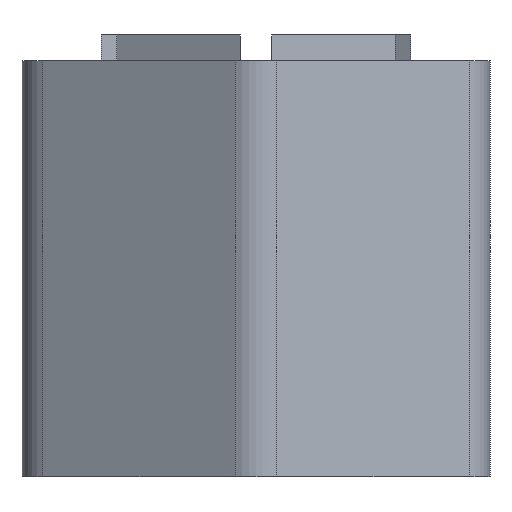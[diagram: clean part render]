
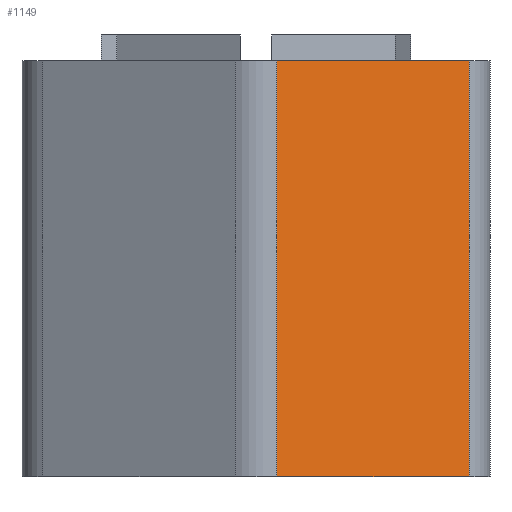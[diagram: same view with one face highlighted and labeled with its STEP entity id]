
A CAD part, front view. The second image highlights one B-rep face of the part: STEP entity #1149.
In plain terms, the highlighted planar face has unit normal (0.5, -0.866, 0).
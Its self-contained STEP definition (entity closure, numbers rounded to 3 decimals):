
#41=LINE('',#1647,#155);
#81=LINE('',#2161,#195);
#93=LINE('',#2190,#207);
#95=LINE('',#2193,#209);
#155=VECTOR('',#1293,10.);
#195=VECTOR('',#1361,10.);
#207=VECTOR('',#1385,10.);
#209=VECTOR('',#1389,10.);
#274=PLANE('',#1231);
#333=FACE_OUTER_BOUND('',#397,.T.);
#397=EDGE_LOOP('',(#945,#946,#947,#948));
#504=VERTEX_POINT('',#1644);
#505=VERTEX_POINT('',#1646);
#568=VERTEX_POINT('',#2158);
#569=VERTEX_POINT('',#2160);
#619=EDGE_CURVE('',#504,#505,#41,.T.);
#704=EDGE_CURVE('',#568,#569,#81,.T.);
#719=EDGE_CURVE('',#505,#568,#93,.T.);
#721=EDGE_CURVE('',#569,#504,#95,.T.);
#945=ORIENTED_EDGE('',*,*,#719,.F.);
#946=ORIENTED_EDGE('',*,*,#619,.F.);
#947=ORIENTED_EDGE('',*,*,#721,.F.);
#948=ORIENTED_EDGE('',*,*,#704,.F.);
#1149=ADVANCED_FACE('',(#333),#274,.T.);
#1231=AXIS2_PLACEMENT_3D('',#2192,#1387,#1388);
#1293=DIRECTION('',(0.866,0.5,0.));
#1361=DIRECTION('',(-0.866,-0.5,0.));
#1385=DIRECTION('',(0.,0.,-1.));
#1387=DIRECTION('center_axis',(0.5,-0.866,0.));
#1388=DIRECTION('ref_axis',(0.866,0.5,0.));
#1389=DIRECTION('',(0.,0.,1.));
#1644=CARTESIAN_POINT('',(2.,-24.826,37.));
#1646=CARTESIAN_POINT('',(20.5,-14.145,37.));
#1647=CARTESIAN_POINT('',(0.,-25.981,37.));
#2158=CARTESIAN_POINT('',(20.5,-14.145,-3.));
#2160=CARTESIAN_POINT('',(2.,-24.826,-3.));
#2161=CARTESIAN_POINT('',(0.,-25.981,-3.));
#2190=CARTESIAN_POINT('',(20.5,-14.145,0.));
#2192=CARTESIAN_POINT('Origin',(0.,-25.981,
0.));
#2193=CARTESIAN_POINT('',(2.,-24.826,0.));
